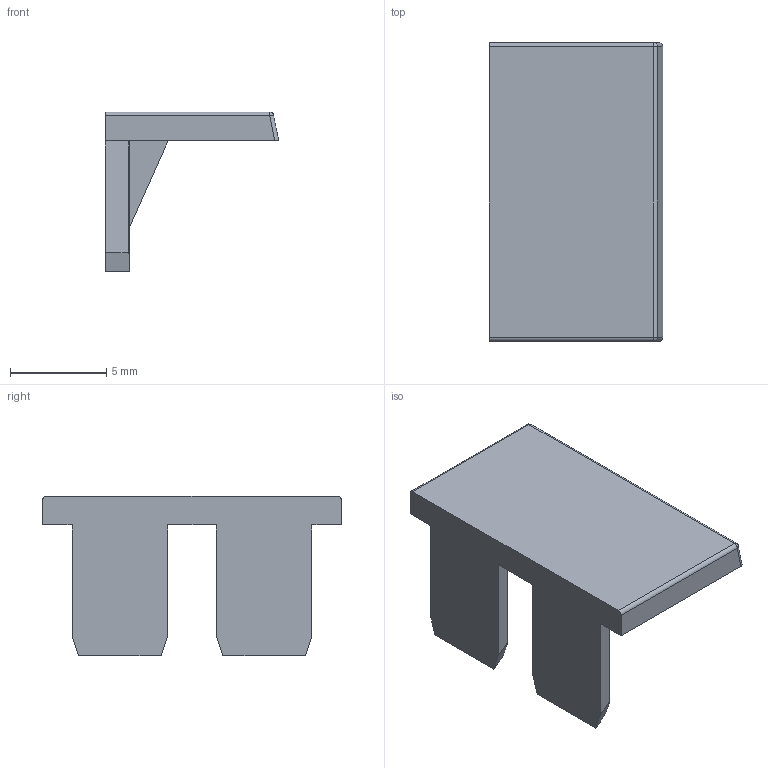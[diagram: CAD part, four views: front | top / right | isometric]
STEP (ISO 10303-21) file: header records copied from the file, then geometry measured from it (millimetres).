
FILE_DESCRIPTION (( 'STEP AP214' ), '1' );
FILE_NAME ('SR2P 梓暮齪.STEP', '2018-05-10T07:30:14', ( 'shenler' ), ( 'Microsoft' ), 'SwSTEP 2.0', 'SolidWorks 2017', '' );
FILE_SCHEMA (( 'AUTOMOTIVE_DESIGN' ));
Length unit declared in the file: millimetre
Products named in the file (1): SR2P 梓暮齪
Bounding box: 9 x 15.5 x 8.3 mm (x, y, z)
Volume: 293.3 mm3; surface area: 512.7 mm2
Topology: 1 solids, 1 shells, 35 faces, 95 edges, 60 vertices
Faces by surface type: plane 24, cylinder 9, sphere 2
Entity records: 1105 total; most frequent: CARTESIAN_POINT 207, ORIENTED_EDGE 186, DIRECTION 171, EDGE_CURVE 93, VECTOR 75, LINE 75, VERTEX_POINT 60, AXIS2_PLACEMENT_3D 48
